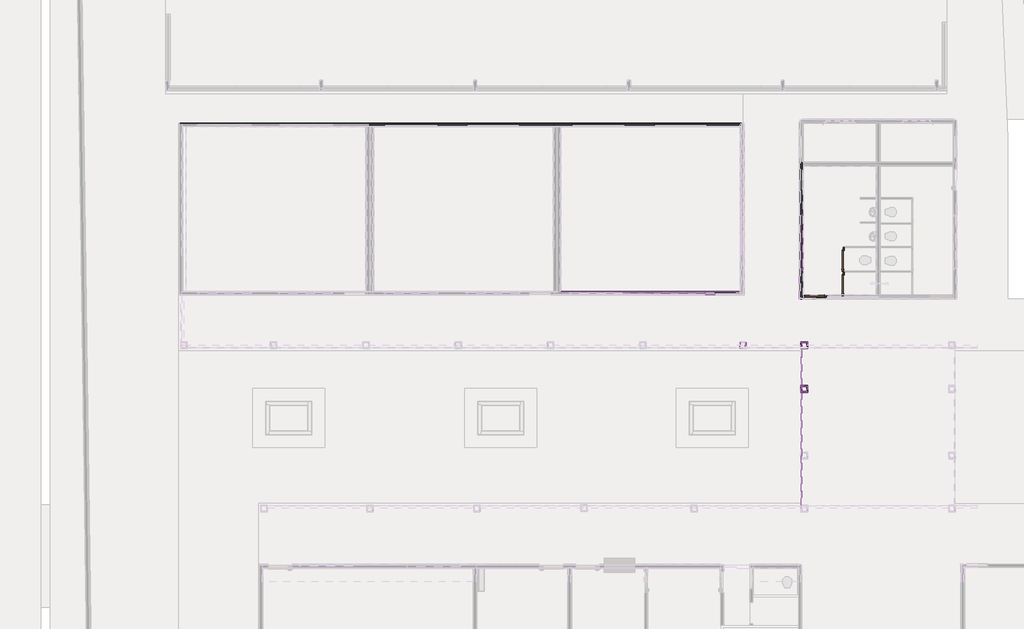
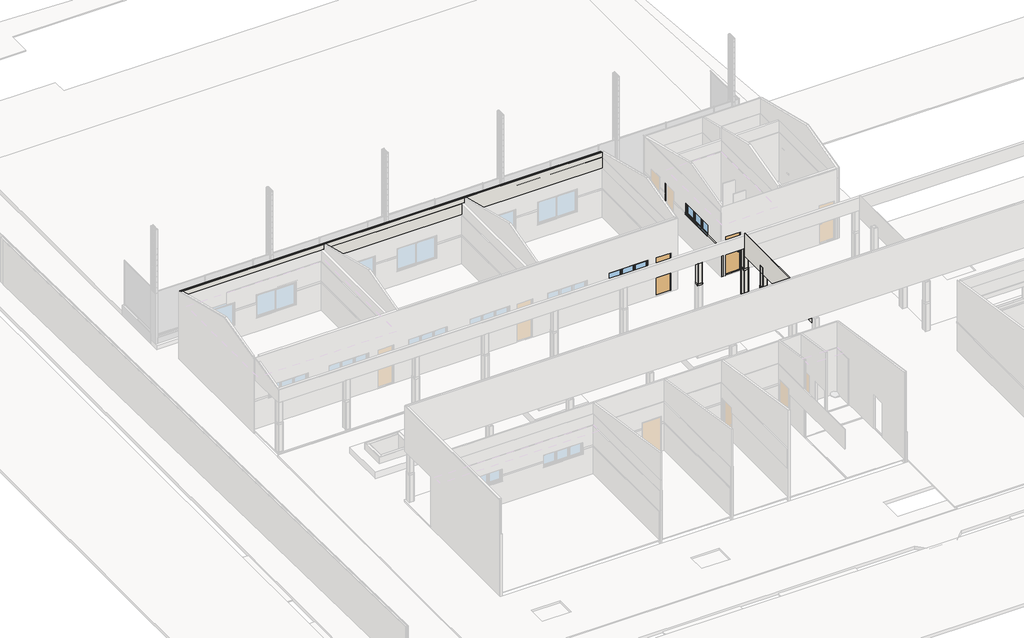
# One storey, part 9 of 28: 44 walls, 6 doors, 2 windows.
"""IFC4 building model written with IfcOpenShell, lengths in millimetres."""

from ifc_helpers import new_model, si_unit, frame, origin, place, context, project, spatial, polyline, outline, extrude, faceted_brep, transform, mapped, element, save
from components import door_29174598, door_c5e6bcd0, door_95b59213, pf15_l82cm_5bfc7586, pf15_l82cm_686caa18, window_2x60x220_bcaba8dd

model = new_model("IFC4")

# Units and contexts
model_context = context("Model", 3, world=origin())
ifc_project = project(units=[si_unit("LENGTHUNIT", "METRE", prefix="MILLI")], contexts=[model_context])

# Site, building, storey
site = spatial("IfcSite", under=ifc_project)
building = spatial("IfcBuilding", under=site)
storey = spatial("IfcBuildingStorey", under=building, Name="Térreo", Elevation=0.0)

# Doors
placement = place(None, origin())
door_shape = door_29174598(model_context)
element("IfcDoor", 1, ObjectType="FDE_SO_Soleiras1 : SO14_SoleiraRampadaDesnívelAté2cm_L=14cm_Cimentado 2", at=placement, inside=storey, context=model_context, shape_type="MappedRepresentation", body=[
    mapped(door_shape, transform((-36937.0, 21250.0, 200.0), x_axis=(1.0, 0.0, 0.0), y_axis=(0.0, 1.0, 0.0), z_axis=(0.0, 0.0, 1.0))),
])
door_2_shape = door_c5e6bcd0(model_context)
element("IfcDoor", 2, ObjectType="FDE_PM_PortaBoxe : PM74_PortaBoxe_L0,62m", at=placement, inside=storey, context=model_context, shape_type="MappedRepresentation", body=[
    mapped(door_2_shape, transform((-32328.0780576, 22525.9999995, 200.0), x_axis=(0.0, 1.0, 0.0), y_axis=(-1.0, 0.0, 0.0), z_axis=(0.0, 0.0, 1.0))),
])
element("IfcDoor", 3, ObjectType="FDE_PM_PortaBoxe : PM74_PortaBoxe_L0,62m", at=placement, inside=storey, context=model_context, shape_type="MappedRepresentation", body=[
    mapped(door_2_shape, transform((-32328.0780576, 21566.0000001, 200.0), x_axis=(0.0, 1.0, 0.0), y_axis=(-1.0, 0.0, 0.0), z_axis=(0.0, 0.0, 1.0))),
])
door_3_shape = door_95b59213(model_context)
element("IfcDoor", 4, ObjectType="FDE_SO_Soleiras1 : SO14_SoleiraRampadaDesnívelAté2cm_L=14cm_Cimentado 2", at=placement, inside=storey, context=model_context, shape_type="MappedRepresentation", body=[
    mapped(door_3_shape, transform((-33413.0, 21100.0, 215.0), x_axis=(-1.0, 0.0, 0.0), y_axis=(0.0, -1.0, 0.0), z_axis=(0.0, 0.0, 1.0))),
])
pf15_l82cm_shape = pf15_l82cm_5bfc7586(model_context)
element("IfcDoor", 5, ObjectType="FDE_PF15_PF16_PF17_PortaemChapadeFerro : PF15_L82cm", at=placement, inside=storey, context=model_context, shape_type="MappedRepresentation", body=[
    mapped(pf15_l82cm_shape, transform((-36937.0, 21255.0, 200.0), x_axis=(1.0, 0.0, 0.0), y_axis=(0.0, 1.0, 0.0), z_axis=(0.0, 0.0, 1.0))),
])
pf15_l82cm_2_shape = pf15_l82cm_686caa18(model_context)
element("IfcDoor", 6, ObjectType="FDE_PF15_PF16_PF17_PortaemChapadeFerro : PF15_L82cm", at=placement, inside=storey, context=model_context, shape_type="MappedRepresentation", body=[
    mapped(pf15_l82cm_2_shape, transform((-33413.0, 21105.0, 215.0), x_axis=(-1.0, 0.0, 0.0), y_axis=(0.0, -1.0, 0.0), z_axis=(0.0, 0.0, 1.0))),
])

# Walls
element("IfcWall", 7, ObjectType="FDE_S712_AlvenariadeTijoloCerâmico/Baiano_Alvenaria_9cm - Existente", at=placement, inside=storey, context=model_context, shape_type="SweptSolid", body=[
    extrude(outline(polyline([(0.0, -50830.0), (0.0, -43620.0), (3500.0, -43620.0), (3500.0, -50830.0), (0.0, -50830.0)]), holes=[polyline([(965.0, -47015.0), (2235.0, -47015.0), (2235.0, -44945.0), (965.0, -44945.0), (965.0, -47015.0)]), polyline([(965.0, -50215.0), (2235.0, -50215.0), (2235.0, -48145.0), (965.0, -48145.0), (965.0, -50215.0)])]), frame((0.0, 27780.0, 0.0), z_axis=(0.0, 1.0, 0.0), x_axis=(0.0, 0.0, 1.0)), (0.0, 0.0, 1.0), 90.0),
])
element("IfcWall", 8, ObjectType="FDE_S712_AlvenariadeTijoloCerâmico/Baiano_Alvenaria_9cm - Existente", at=placement, inside=storey, context=model_context, shape_type="Brep", body=[
    faceted_brep([(-36320.0, 21300.0, 0.0), (-43530.0, 21300.0, 0.0), (-43530.0, 21300.0, 3500.0), (-36320.0, 21300.0, 3500.0), (-36520.0, 21300.0, 200.0), (-36520.0, 21300.0, 2312.0), (-37354.0, 21300.0, 2312.0), (-37354.0, 21300.0, 200.0), (-37719.0, 21300.0, 1665.0), (-37719.0, 21300.0, 2335.0), (-39789.0, 21300.0, 2335.0), (-39789.0, 21300.0, 1665.0), (-40911.0, 21300.0, 1665.0), (-40911.0, 21300.0, 2335.0), (-42981.0, 21300.0, 2335.0), (-42981.0, 21300.0, 1665.0), (-43530.0, 21210.0, 0.0), (-36320.0, 21210.0, 0.0), (-36320.0, 21210.0, 3500.0), (-43530.0, 21210.0, 3500.0), (-36520.0, 21210.0, 2312.0), (-36520.0, 21210.0, 1824.9435125), (-36520.0, 21210.0, 1731.0528047), (-36520.0, 21210.0, 200.0), (-37354.0, 21210.0, 200.0), (-37354.0, 21210.0, 1731.0528047), (-37354.0, 21210.0, 1824.9435125), (-37354.0, 21210.0, 2312.0), (-37719.0, 21210.0, 2335.0), (-37719.0, 21210.0, 1824.9435125), (-37719.0, 21210.0, 1731.0528047), (-37719.0, 21210.0, 1665.0), (-39789.0, 21210.0, 1665.0), (-39789.0, 21210.0, 1731.0528047), (-39789.0, 21210.0, 1824.9435125), (-39789.0, 21210.0, 2335.0), (-40911.0, 21210.0, 2335.0), (-40911.0, 21210.0, 1824.9435125), (-40911.0, 21210.0, 1731.0528047), (-40911.0, 21210.0, 1665.0), (-42981.0, 21210.0, 1665.0), (-42981.0, 21210.0, 1731.0528047), (-42981.0, 21210.0, 1824.9435125), (-42981.0, 21210.0, 2335.0)], [[[0, 1, 2, 3], [4, 5, 6, 7], [8, 9, 10, 11], [12, 13, 14, 15]], [[16, 17, 18, 19], [20, 21, 22, 23, 24, 25, 26, 27], [28, 29, 30, 31, 32, 33, 34, 35], [36, 37, 38, 39, 40, 41, 42, 43]], [[1, 0, 17, 16]], [[3, 2, 19, 18]], [[2, 1, 16, 19]], [[4, 23, 22, 21, 20, 5]], [[5, 20, 27, 6]], [[6, 27, 26, 25, 24, 7]], [[23, 4, 7, 24]], [[8, 31, 30, 29, 28, 9]], [[9, 28, 35, 10]], [[10, 35, 34, 33, 32, 11]], [[31, 8, 11, 32]], [[12, 39, 38, 37, 36, 13]], [[13, 36, 43, 14]], [[14, 43, 42, 41, 40, 15]], [[39, 12, 15, 40]], [[17, 0, 3, 18]]]),
])
element("IfcWall", 9, ObjectType="FDE_S712_AlvenariadeTijoloCerâmico/Baiano_Alvenaria_9cm - Existente", at=placement, inside=storey, context=model_context, shape_type="Brep", body=[
    faceted_brep([(-33930.0, 21060.0, 0.0), (-33930.0, 21150.0, 0.0), (-33930.0, 26255.0, 0.0), (-33930.0, 26345.0, 0.0), (-33930.0, 26345.0, 3500.0), (-33930.0, 26255.0, 3500.0), (-33930.0, 21060.0, 3500.0), (-33930.0, 21060.0, 1731.0528047), (-33930.0, 21030.0, 1731.0528047), (-33930.0, 21030.0, 131.0), (-33930.0, 21060.0, 131.0), (-33930.0, 26096.0, 2327.0), (-33930.0, 26096.0, 215.0), (-33930.0, 25262.0, 215.0), (-33930.0, 25262.0, 2327.0), (-33930.0, 22215.0, 1665.0), (-33930.0, 22215.0, 2335.0), (-33930.0, 24285.0, 2335.0), (-33930.0, 24285.0, 1665.0), (-34020.0, 26345.0, 0.0), (-34020.0, 21060.0, 0.0), (-34020.0, 21060.0, 131.0), (-34020.0, 21030.0, 131.0), (-34020.0, 21030.0, 1731.0528047), (-34020.0, 21060.0, 1731.0528047), (-34020.0, 21060.0, 1824.9435125), (-34020.0, 21060.0, 3500.0), (-34020.0, 26345.0, 3500.0), (-34020.0, 26096.0, 215.0), (-34020.0, 26096.0, 1824.9435125), (-34020.0, 26096.0, 2327.0), (-34020.0, 25262.0, 2327.0), (-34020.0, 25262.0, 1824.9435125), (-34020.0, 25262.0, 215.0), (-34020.0, 22215.0, 2335.0), (-34020.0, 22215.0, 1824.9435125), (-34020.0, 22215.0, 1665.0), (-34020.0, 24285.0, 1665.0), (-34020.0, 24285.0, 1824.9435125), (-34020.0, 24285.0, 2335.0)], [[[0, 1, 2, 3, 4, 5, 6, 7, 8, 9, 10], [11, 12, 13, 14], [15, 16, 17, 18]], [[19, 20, 21, 22, 23, 24, 25, 26, 27], [28, 29, 30, 31, 32, 33], [34, 35, 36, 37, 38, 39]], [[3, 2, 1, 0, 20, 19]], [[6, 5, 4, 27, 26]], [[4, 3, 19, 27]], [[28, 12, 11, 30, 29]], [[30, 11, 14, 31]], [[31, 14, 13, 33, 32]], [[12, 28, 33, 13]], [[15, 36, 35, 34, 16]], [[16, 34, 39, 17]], [[17, 39, 38, 37, 18]], [[36, 15, 18, 37]], [[22, 21, 10, 9]], [[20, 0, 10, 21]], [[24, 23, 8, 7]], [[22, 9, 8, 23]], [[6, 26, 25, 24, 7]]]),
])
element("IfcWall", 10, ObjectType="FDE_S712_AlvenariadeTijoloCerâmico/Baiano_Alvenaria_9cm - Existente", at=placement, inside=storey, context=model_context, shape_type="Brep", body=[
    faceted_brep([(-58130.0, 27779.9999994, 0.0), (-50770.0, 27779.9999994, 0.0), (-50680.0, 27779.9999994, 0.0), (-43470.0, 27779.9999994, 0.0), (-43380.0, 27779.9999994, 0.0), (-36320.0, 27779.9999994, 0.0), (-36320.0, 27779.9999994, 220.0), (-36320.0, 27779.9999994, 1731.0528047), (-36320.0, 27779.9999994, 3767.0080278), (-43380.0, 27779.9999994, 3767.0080278), (-43470.0, 27779.9999994, 3767.0080278), (-50680.0, 27779.9999994, 3767.0080278), (-50770.0, 27779.9999994, 3767.0080278), (-58130.0, 27779.9999994, 3767.0080278), (-58130.0, 27779.9999994, 2900.0), (-58130.0, 27779.9999994, 1824.9435125), (-58130.0, 27779.9999994, 1731.0528047), (-58130.0, 27779.9999994, 220.0), (-47015.0, 27779.9999994, 965.0), (-47015.0, 27779.9999994, 1731.0528047), (-47015.0, 27779.9999994, 1824.9435125), (-47015.0, 27779.9999994, 2235.0), (-44945.0, 27779.9999994, 2235.0), (-44945.0, 27779.9999994, 1824.9435125), (-44945.0, 27779.9999994, 1731.0528047), (-44945.0, 27779.9999994, 965.0), (-50215.0, 27779.9999994, 965.0), (-50215.0, 27779.9999994, 1731.0528047), (-50215.0, 27779.9999994, 1824.9435125), (-50215.0, 27779.9999994, 2235.0), (-48145.0, 27779.9999994, 2235.0), (-48145.0, 27779.9999994, 1824.9435125), (-48145.0, 27779.9999994, 1731.0528047), (-48145.0, 27779.9999994, 965.0), (-57515.0, 27779.9999994, 965.0), (-57515.0, 27779.9999994, 2235.0), (-55835.5398007, 27779.9999994, 2235.0), (-55445.0, 27779.9999994, 2235.0), (-55445.0, 27779.9999994, 1824.9435125), (-55445.0, 27779.9999994, 1731.0528047), (-55445.0, 27779.9999994, 965.0), (-55835.5398007, 27779.9999994, 965.0), (-39715.0, 27779.9999994, 965.0), (-39715.0, 27779.9999994, 1731.0528047), (-39715.0, 27779.9999994, 1824.9435125), (-39715.0, 27779.9999994, 2235.0), (-37645.0, 27779.9999994, 2235.0), (-37645.0, 27779.9999994, 1824.9435125), (-37645.0, 27779.9999994, 1731.0528047), (-37645.0, 27779.9999994, 965.0), (-42915.0, 27779.9999994, 965.0), (-42915.0, 27779.9999994, 1731.0528047), (-42915.0, 27779.9999994, 1824.9435125), (-42915.0, 27779.9999994, 2235.0), (-40845.0, 27779.9999994, 2235.0), (-40845.0, 27779.9999994, 1824.9435125), (-40845.0, 27779.9999994, 1731.0528047), (-40845.0, 27779.9999994, 965.0), (-54315.0, 27779.9999994, 965.0), (-54315.0, 27779.9999994, 1731.0528047), (-54315.0, 27779.9999994, 1824.9435125), (-54315.0, 27779.9999994, 2235.0), (-52245.0, 27779.9999994, 2235.0), (-52245.0, 27779.9999994, 1824.9435125), (-52245.0, 27779.9999994, 1731.0528047), (-52245.0, 27779.9999994, 965.0), (-36320.0, 27869.9999994, 0.0), (-58130.0, 27869.9999994, 0.0), (-58130.0, 27869.9999994, 3744.5080278), (-36320.0, 27869.9999994, 3744.5080278), (-47015.0, 27869.9999994, 2235.0), (-47015.0, 27869.9999994, 965.0), (-44945.0, 27869.9999994, 965.0), (-44945.0, 27869.9999994, 2235.0), (-50215.0, 27869.9999994, 2235.0), (-50215.0, 27869.9999994, 965.0), (-48145.0, 27869.9999994, 965.0), (-48145.0, 27869.9999994, 2235.0), (-39715.0, 27869.9999994, 2235.0), (-39715.0, 27869.9999994, 965.0), (-37645.0, 27869.9999994, 965.0), (-37645.0, 27869.9999994, 2235.0), (-42915.0, 27869.9999994, 2235.0), (-42915.0, 27869.9999994, 965.0), (-40845.0, 27869.9999994, 965.0), (-40845.0, 27869.9999994, 2235.0), (-54315.0, 27869.9999994, 2235.0), (-54315.0, 27869.9999994, 965.0), (-52245.0, 27869.9999994, 965.0), (-52245.0, 27869.9999994, 2235.0), (-57515.0, 27869.9999994, 2235.0), (-57515.0, 27869.9999994, 965.0), (-55445.0, 27869.9999994, 965.0), (-55445.0, 27869.9999994, 2235.0)], [[[0, 1, 2, 3, 4, 5, 6, 7, 8, 9, 10, 11, 12, 13, 14, 15, 16, 17], [18, 19, 20, 21, 22, 23, 24, 25], [26, 27, 28, 29, 30, 31, 32, 33], [34, 35, 36, 37, 38, 39, 40, 41], [42, 43, 44, 45, 46, 47, 48, 49], [50, 51, 52, 53, 54, 55, 56, 57], [58, 59, 60, 61, 62, 63, 64, 65]], [[66, 67, 68, 69], [70, 71, 72, 73], [74, 75, 76, 77], [78, 79, 80, 81], [82, 83, 84, 85], [86, 87, 88, 89], [90, 91, 92, 93]], [[5, 4, 3, 2, 1, 0, 67, 66]], [[8, 7, 6, 5, 66, 69]], [[13, 12, 11, 10, 9, 8, 69, 68]], [[18, 71, 70, 21, 20, 19]], [[21, 70, 73, 22]], [[22, 73, 72, 25, 24, 23]], [[71, 18, 25, 72]], [[26, 75, 74, 29, 28, 27]], [[29, 74, 77, 30]], [[30, 77, 76, 33, 32, 31]], [[75, 26, 33, 76]], [[67, 0, 17, 16, 15, 14, 13, 68]], [[42, 79, 78, 45, 44, 43]], [[45, 78, 81, 46]], [[46, 81, 80, 49, 48, 47]], [[79, 42, 49, 80]], [[50, 83, 82, 53, 52, 51]], [[53, 82, 85, 54]], [[54, 85, 84, 57, 56, 55]], [[83, 50, 57, 84]], [[58, 87, 86, 61, 60, 59]], [[61, 86, 89, 62]], [[62, 89, 88, 65, 64, 63]], [[87, 58, 65, 88]], [[34, 91, 90, 35]], [[35, 90, 93, 37, 36]], [[37, 93, 92, 40, 39, 38]], [[91, 34, 41, 40, 92]]]),
])
element("IfcWall", 11, ObjectType="Pintura Externa - Tinta Acrílica Verbrás  Verde Água", at=placement, inside=storey, context=model_context, shape_type="Brep", body=[
    faceted_brep([(-58220.0, 27869.9999994, 0.0), (-58130.0, 27869.9999994, 0.0), (-50830.0, 27869.9999994, 0.0), (-43620.0, 27869.9999994, 0.0), (-36320.0, 27869.9999994, 0.0), (-36320.0, 27869.9999994, 1824.9435125), (-36320.0, 27869.9999994, 2900.0), (-36320.0, 27869.9999994, 3744.5080278), (-36320.0, 27869.9999994, 3748.2225857), (-58220.0, 27869.9999994, 3748.2225857), (-47015.0, 27869.9999994, 965.0), (-47015.0, 27869.9999994, 2235.0), (-44945.0, 27869.9999994, 2235.0), (-44945.0, 27869.9999994, 965.0), (-50215.0, 27869.9999994, 965.0), (-50215.0, 27869.9999994, 2235.0), (-48145.0, 27869.9999994, 2235.0), (-48145.0, 27869.9999994, 965.0), (-39715.0, 27869.9999994, 965.0), (-39715.0, 27869.9999994, 2235.0), (-37645.0, 27869.9999994, 2235.0), (-37645.0, 27869.9999994, 965.0), (-42915.0, 27869.9999994, 965.0), (-42915.0, 27869.9999994, 2235.0), (-40845.0, 27869.9999994, 2235.0), (-40845.0, 27869.9999994, 965.0), (-54315.0, 27869.9999994, 965.0), (-54315.0, 27869.9999994, 2235.0), (-52245.0, 27869.9999994, 2235.0), (-52245.0, 27869.9999994, 965.0), (-57515.0, 27869.9999994, 965.0), (-57515.0, 27869.9999994, 2235.0), (-55445.0, 27869.9999994, 2235.0), (-55445.0, 27869.9999994, 965.0), (-36320.0, 27899.9999994, 0.0), (-58220.0, 27899.9999994, 0.0), (-58220.0, 27899.9999994, 3737.0080278), (-58220.0, 27899.9999994, 3748.2225857), (-36320.0, 27899.9999994, 3748.2225857), (-47015.0, 27899.9999994, 2235.0), (-47015.0, 27899.9999994, 965.0), (-44945.0, 27899.9999994, 965.0), (-44945.0, 27899.9999994, 2235.0), (-50215.0, 27899.9999994, 2235.0), (-50215.0, 27899.9999994, 965.0), (-48145.0, 27899.9999994, 965.0), (-48145.0, 27899.9999994, 2235.0), (-39715.0, 27899.9999994, 2235.0), (-39715.0, 27899.9999994, 965.0), (-37645.0, 27899.9999994, 965.0), (-37645.0, 27899.9999994, 2235.0), (-42915.0, 27899.9999994, 2235.0), (-42915.0, 27899.9999994, 965.0), (-40845.0, 27899.9999994, 965.0), (-40845.0, 27899.9999994, 2235.0), (-54315.0, 27899.9999994, 2235.0), (-54315.0, 27899.9999994, 965.0), (-52245.0, 27899.9999994, 965.0), (-52245.0, 27899.9999994, 2235.0), (-57515.0, 27899.9999994, 2235.0), (-57515.0, 27899.9999994, 965.0), (-55445.0, 27899.9999994, 965.0), (-55445.0, 27899.9999994, 2235.0)], [[[0, 1, 2, 3, 4, 5, 6, 7, 8, 9], [10, 11, 12, 13], [14, 15, 16, 17], [18, 19, 20, 21], [22, 23, 24, 25], [26, 27, 28, 29], [30, 31, 32, 33]], [[34, 35, 36, 37, 38], [39, 40, 41, 42], [43, 44, 45, 46], [47, 48, 49, 50], [51, 52, 53, 54], [55, 56, 57, 58], [59, 60, 61, 62]], [[4, 3, 2, 1, 0, 35, 34]], [[9, 8, 38, 37]], [[0, 9, 37, 36, 35]], [[10, 40, 39, 11]], [[11, 39, 42, 12]], [[12, 42, 41, 13]], [[40, 10, 13, 41]], [[14, 44, 43, 15]], [[15, 43, 46, 16]], [[16, 46, 45, 17]], [[44, 14, 17, 45]], [[8, 7, 6, 5, 4, 34, 38]], [[18, 48, 47, 19]], [[19, 47, 50, 20]], [[20, 50, 49, 21]], [[48, 18, 21, 49]], [[22, 52, 51, 23]], [[23, 51, 54, 24]], [[24, 54, 53, 25]], [[52, 22, 25, 53]], [[26, 56, 55, 27]], [[27, 55, 58, 28]], [[28, 58, 57, 29]], [[56, 26, 29, 57]], [[30, 60, 59, 31]], [[31, 59, 62, 32]], [[32, 62, 61, 33]], [[60, 30, 33, 61]]]),
])
element("IfcWall", 12, ObjectType="ACM Verde Folha_Marquise", at=placement, inside=storey, context=model_context, shape_type="Brep", body=[
    faceted_brep([(-33974.4091269, 19037.7110243, 2530.0), (-33974.4091269, 12971.0, 2530.0), (-33974.4091269, 12971.0, 2900.0), (-33974.4091269, 12980.0, 2900.0), (-33974.4091269, 12980.0, 3790.9420848), (-33974.4091269, 19037.7110243, 3790.9420848), (-33954.4091269, 19037.7110243, 2530.0), (-33954.4091269, 19037.7110243, 3790.9420848), (-33954.4091269, 19017.7110243, 3790.9420848), (-33954.4091269, 13000.0, 3790.9420848), (-33954.4091269, 12980.0, 3790.9420848), (-33954.4091269, 12980.0, 2900.0), (-33954.4091269, 12971.0, 2900.0), (-33954.4091269, 12971.0, 2530.0), (-33954.4091269, 12980.0, 2530.0), (-33954.4091269, 13000.0, 2530.0), (-33954.4091269, 19017.7110243, 2530.0)], [[[0, 1, 2, 3, 4, 5]], [[6, 7, 8, 9, 10, 11, 12, 13, 14, 15, 16]], [[1, 0, 6, 16, 15, 14, 13]], [[5, 4, 10, 9, 8, 7]], [[11, 3, 2, 12]], [[2, 1, 13, 12]], [[4, 3, 11, 10]], [[0, 5, 7, 6]]]),
])
element("IfcWall", 13, ObjectType="Faixa - Revestimento Cerâmico Verde Folha 10x10cm", at=placement, inside=storey, context=model_context, shape_type="Brep", body=[
    faceted_brep([(-34050.0, 21030.0, 1731.0528047), (-34020.0, 21030.0, 1731.0528047), (-33930.0, 21030.0, 1731.0528047), (-33150.0, 21030.0, 1731.0528047), (-33150.0, 21030.0, 1824.9435125), (-34050.0, 21030.0, 1824.9435125), (-34050.0, 21060.0, 1731.0528047), (-34050.0, 21060.0, 1824.9435125), (-34020.0, 21060.0, 1824.9435125), (-33150.0, 21060.0, 1824.9435125), (-33150.0, 21060.0, 1731.0528047), (-33930.0, 21060.0, 1731.0528047), (-34020.0, 21060.0, 1731.0528047)], [[[0, 1, 2, 3, 4, 5]], [[6, 7, 8, 9, 10, 11, 12]], [[3, 2, 1, 0, 6, 12, 11, 10]], [[4, 3, 10, 9]], [[5, 4, 9, 8, 7]], [[0, 5, 7, 6]]]),
])
element("IfcWall", 14, ObjectType="Revestimento Cerâmico 10x10cm", at=placement, inside=storey, context=model_context, shape_type="Brep", body=[
    faceted_brep([(-36350.0, 21330.0, 0.0), (-43380.0, 21330.0, 0.0), (-43380.0, 21330.0, 220.0), (-43380.0, 21330.0, 1731.0528047), (-43350.0, 21330.0, 1731.0528047), (-42981.0, 21330.0, 1731.0528047), (-42981.0, 21330.0, 1665.0), (-40911.0, 21330.0, 1665.0), (-40911.0, 21330.0, 1731.0528047), (-39789.0, 21330.0, 1731.0528047), (-39789.0, 21330.0, 1665.0), (-37719.0, 21330.0, 1665.0), (-37719.0, 21330.0, 1731.0528047), (-37354.0, 21330.0, 1731.0528047), (-37354.0, 21330.0, 200.0), (-36520.0, 21330.0, 200.0), (-36520.0, 21330.0, 1731.0528047), (-36350.0, 21330.0, 1731.0528047), (-43380.0, 21300.0, 0.0), (-36350.0, 21300.0, 0.0), (-36350.0, 21300.0, 1731.0528047), (-36520.0, 21300.0, 1731.0528047), (-36520.0, 21300.0, 200.0), (-37354.0, 21300.0, 200.0), (-37354.0, 21300.0, 1731.0528047), (-37719.0, 21300.0, 1731.0528047), (-37719.0, 21300.0, 1665.0), (-39789.0, 21300.0, 1665.0), (-39789.0, 21300.0, 1731.0528047), (-40911.0, 21300.0, 1731.0528047), (-40911.0, 21300.0, 1665.0), (-42981.0, 21300.0, 1665.0), (-42981.0, 21300.0, 1731.0528047), (-43380.0, 21300.0, 1731.0528047), (-43380.0, 21315.0, 1731.0528047)], [[[0, 1, 2, 3, 4, 5, 6, 7, 8, 9, 10, 11, 12, 13, 14, 15, 16, 17]], [[18, 19, 20, 21, 22, 23, 24, 25, 26, 27, 28, 29, 30, 31, 32, 33]], [[1, 0, 19, 18]], [[20, 17, 16, 21]], [[3, 34, 33, 32, 5, 4]], [[24, 13, 12, 25]], [[28, 9, 8, 29]], [[0, 17, 20, 19]], [[3, 2, 1, 18, 33, 34]], [[15, 22, 21, 16]], [[23, 14, 13, 24]], [[22, 15, 14, 23]], [[11, 26, 25, 12]], [[27, 10, 9, 28]], [[26, 11, 10, 27]], [[7, 30, 29, 8]], [[31, 6, 5, 32]], [[30, 7, 6, 31]]]),
])
element("IfcWall", 15, ObjectType="Faixa - Revestimento Cerâmico Verde Folha 10x10cm", at=placement, inside=storey, context=model_context, shape_type="SweptSolid", body=[
    extrude(outline(polyline([(-43365.0, 21270.0), (-43365.0, 21300.0), (-42981.0, 21300.0), (-42981.0, 21270.0), (-43365.0, 21270.0)])), frame((0.0, 0.0, 1731.0528047), z_axis=(0.0, 0.0, 1.0), x_axis=(1.0, 0.0, 0.0)), (0.0, 0.0, 1.0), 93.8907079),
    extrude(outline(polyline([(-36350.0, 21300.0), (-36350.0, 21270.0), (-36520.0, 21270.0), (-36520.0, 21300.0), (-36350.0, 21300.0)])), frame((0.0, 0.0, 1731.0528047), z_axis=(0.0, 0.0, 1.0), x_axis=(1.0, 0.0, 0.0)), (0.0, 0.0, 1.0), 93.8907079),
    extrude(outline(polyline([(-37719.0, 21270.0), (-37719.0, 21300.0), (-37354.0, 21300.0), (-37354.0, 21270.0), (-37719.0, 21270.0)])), frame((0.0, 0.0, 1731.0528047), z_axis=(0.0, 0.0, 1.0), x_axis=(1.0, 0.0, 0.0)), (0.0, 0.0, 1.0), 93.8907079),
    extrude(outline(polyline([(-39789.0, 21300.0), (-39789.0, 21270.0), (-40911.0, 21270.0), (-40911.0, 21300.0), (-39789.0, 21300.0)])), frame((0.0, 0.0, 1731.0528047), z_axis=(0.0, 0.0, 1.0), x_axis=(1.0, 0.0, 0.0)), (0.0, 0.0, 1.0), 93.8907079),
])
element("IfcWall", 16, ObjectType="Pardes Internas_Pintura Acrílica Branco Neve 2", at=placement, inside=storey, context=model_context, shape_type="Brep", body=[
    faceted_brep([(-43380.0, 21331.0, 2900.8), (-36335.0, 21331.0, 2900.8), (-36335.0, 21331.0, 1824.9435125), (-36520.0, 21331.0, 1824.9435125), (-36520.0, 21331.0, 2312.0), (-37354.0, 21331.0, 2312.0), (-37354.0, 21331.0, 1824.9435125), (-37719.0, 21331.0, 1824.9435125), (-37719.0, 21331.0, 2335.0), (-39789.0, 21331.0, 2335.0), (-39789.0, 21331.0, 1824.9435125), (-40911.0, 21331.0, 1824.9435125), (-40911.0, 21331.0, 2335.0), (-42981.0, 21331.0, 2335.0), (-42981.0, 21331.0, 1824.9435125), (-43349.0, 21331.0, 1824.9435125), (-43380.0, 21331.0, 1824.9435125), (-43380.0, 21331.0, 2900.0), (-36335.0, 21300.0, 2900.8), (-43380.0, 21300.0, 2900.8), (-43380.0, 21300.0, 1824.9435125), (-42981.0, 21300.0, 1824.9435125), (-42981.0, 21300.0, 2335.0), (-40911.0, 21300.0, 2335.0), (-40911.0, 21300.0, 1824.9435125), (-39789.0, 21300.0, 1824.9435125), (-39789.0, 21300.0, 2335.0), (-37719.0, 21300.0, 2335.0), (-37719.0, 21300.0, 1824.9435125), (-37354.0, 21300.0, 1824.9435125), (-37354.0, 21300.0, 2312.0), (-36520.0, 21300.0, 2312.0), (-36520.0, 21300.0, 1824.9435125), (-36335.0, 21300.0, 1824.9435125)], [[[0, 1, 2, 3, 4, 5, 6, 7, 8, 9, 10, 11, 12, 13, 14, 15, 16, 17]], [[18, 19, 20, 21, 22, 23, 24, 25, 26, 27, 28, 29, 30, 31, 32, 33]], [[2, 33, 32, 3]], [[20, 16, 15, 14, 21]], [[6, 29, 28, 7]], [[10, 25, 24, 11]], [[1, 0, 19, 18]], [[2, 1, 18, 33]], [[0, 17, 16, 20, 19]], [[31, 4, 3, 32]], [[4, 31, 30, 5]], [[5, 30, 29, 6]], [[27, 8, 7, 28]], [[8, 27, 26, 9]], [[9, 26, 25, 10]], [[23, 12, 11, 24]], [[12, 23, 22, 13]], [[13, 22, 21, 14]]]),
])
element("IfcWall", 17, ObjectType="Faixa - Revestimento Cerâmico Verde Folha 10x10cm", at=placement, inside=storey, context=model_context, shape_type="Brep", body=[
    faceted_brep([(-36520.0, 21180.0, 1731.0528047), (-36200.0, 21180.0, 1731.0528047), (-36200.0, 21180.0, 1824.9435125), (-36520.0, 21180.0, 1824.9435125), (-36200.0, 21210.0, 1731.0528047), (-36230.0, 21210.0, 1731.0528047), (-36520.0, 21210.0, 1731.0528047), (-36520.0, 21210.0, 1824.9435125), (-36230.0, 21210.0, 1824.9435125), (-36200.0, 21210.0, 1824.9435125)], [[[0, 1, 2, 3]], [[4, 5, 6, 7, 8, 9]], [[1, 0, 6, 5, 4]], [[3, 2, 9, 8, 7]], [[0, 3, 7, 6]], [[2, 1, 4, 9]]]),
    faceted_brep([(-37354.0, 21180.0, 1731.0528047), (-37354.0, 21180.0, 1824.9435125), (-37719.0, 21180.0, 1824.9435125), (-37719.0, 21180.0, 1731.0528047), (-37354.0, 21210.0, 1824.9435125), (-37354.0, 21210.0, 1731.0528047), (-37719.0, 21210.0, 1731.0528047), (-37719.0, 21210.0, 1824.9435125)], [[[0, 1, 2, 3]], [[4, 5, 6, 7]], [[5, 0, 3, 6]], [[1, 4, 7, 2]], [[1, 0, 5, 4]], [[3, 2, 7, 6]]]),
])
element("IfcWall", 18, ObjectType="Pardes Externas_Pintura Acrílica Branco Neve", at=placement, inside=storey, context=model_context, shape_type="Brep", body=[
    faceted_brep([(-33974.4091269, 19330.0, 1794.0), (-33953.4091269, 19330.0, 1794.0), (-33753.4091269, 19330.0, 1794.0), (-33732.4091269, 19330.0, 1794.0), (-33732.4091269, 19330.0, 2900.0), (-33753.4091269, 19330.0, 2900.0), (-33953.4091269, 19330.0, 2900.0), (-33974.4091269, 19330.0, 2900.0), (-33974.4091269, 19351.0, 1794.0), (-33974.4091269, 19351.0, 2900.0), (-33732.4091269, 19351.0, 2900.0), (-33732.4091269, 19351.0, 1794.0)], [[[0, 1, 2, 3, 4, 5, 6, 7]], [[8, 9, 10, 11]], [[3, 2, 1, 0, 8, 11]], [[7, 6, 5, 4, 10, 9]], [[0, 7, 9, 8]], [[4, 3, 11, 10]]]),
])
element("IfcWall", 19, ObjectType="Revestimento Cerâmico 10x10cm", at=placement, inside=storey, context=model_context, shape_type="Brep", body=[
    faceted_brep([(-33983.4091269, 19330.0, 194.0), (-33953.4091269, 19330.0, 194.0), (-33753.4091269, 19330.0, 194.0), (-33723.4091269, 19330.0, 194.0), (-33723.4091269, 19330.0, 1694.0), (-33753.4091269, 19330.0, 1694.0), (-33953.4091269, 19330.0, 1694.0), (-33983.4091269, 19330.0, 1694.0), (-33983.4091269, 19360.0, 194.0), (-33983.4091269, 19360.0, 1694.0), (-33723.4091269, 19360.0, 1694.0), (-33723.4091269, 19360.0, 194.0)], [[[0, 1, 2, 3, 4, 5, 6, 7]], [[8, 9, 10, 11]], [[3, 2, 1, 0, 8, 11]], [[7, 6, 5, 4, 10, 9]], [[0, 7, 9, 8]], [[4, 3, 11, 10]]]),
])
element("IfcWall", 20, ObjectType="Revestimento Cerâmico 10x10cm", at=placement, inside=storey, context=model_context, shape_type="Brep", body=[
    faceted_brep([(-33953.4091269, 19100.0, 194.0), (-33953.4091269, 19130.0, 194.0), (-33953.4091269, 19330.0, 194.0), (-33953.4091269, 19330.0, 1694.0), (-33953.4091269, 19130.0, 1694.0), (-33953.4091269, 19100.0, 1694.0), (-33983.4091269, 19100.0, 194.0), (-33983.4091269, 19100.0, 1694.0), (-33983.4091269, 19330.0, 1694.0), (-33983.4091269, 19330.0, 194.0)], [[[0, 1, 2, 3, 4, 5]], [[6, 7, 8, 9]], [[2, 1, 0, 6, 9]], [[5, 4, 3, 8, 7]], [[3, 2, 9, 8]], [[0, 5, 7, 6]]]),
])
element("IfcWall", 21, ObjectType="Revestimento Cerâmico 10x10cm", at=placement, inside=storey, context=model_context, shape_type="Brep", body=[
    faceted_brep([(-33753.4091269, 19330.0, 194.0), (-33753.4091269, 19130.0, 194.0), (-33753.4091269, 19100.0, 194.0), (-33753.4091269, 19100.0, 1694.0), (-33753.4091269, 19130.0, 1694.0), (-33753.4091269, 19330.0, 1694.0), (-33723.4091269, 19330.0, 194.0), (-33723.4091269, 19330.0, 1694.0), (-33723.4091269, 19100.0, 1694.0), (-33723.4091269, 19100.0, 194.0)], [[[0, 1, 2, 3, 4, 5]], [[6, 7, 8, 9]], [[2, 1, 0, 6, 9]], [[5, 4, 3, 8, 7]], [[0, 5, 7, 6]], [[3, 2, 9, 8]]]),
])
element("IfcWall", 22, ObjectType="Revestimento Cerâmico 10x10cm", at=placement, inside=storey, context=model_context, shape_type="SweptSolid", body=[
    extrude(outline(polyline([(-33753.4091269, 19100.0), (-33953.4091269, 19100.0), (-33953.4091269, 19130.0), (-33753.4091269, 19130.0), (-33753.4091269, 19100.0)])), frame((0.0, 0.0, 194.0), z_axis=(0.0, 0.0, 1.0), x_axis=(1.0, 0.0, 0.0)), (0.0, 0.0, 1.0), 1500.0),
])
element("IfcWall", 23, ObjectType="Faixa - Revestimento Cerâmico Verde Folha 10x10cm", at=placement, inside=storey, context=model_context, shape_type="Brep", body=[
    faceted_brep([(-33983.4091269, 19330.0, 1694.0), (-33953.4091269, 19330.0, 1694.0), (-33753.4091269, 19330.0, 1694.0), (-33723.4091269, 19330.0, 1694.0), (-33723.4091269, 19330.0, 1794.0), (-33753.4091269, 19330.0, 1794.0), (-33953.4091269, 19330.0, 1794.0), (-33983.4091269, 19330.0, 1794.0), (-33983.4091269, 19360.0, 1694.0), (-33983.4091269, 19360.0, 1794.0), (-33723.4091269, 19360.0, 1794.0), (-33723.4091269, 19360.0, 1694.0)], [[[0, 1, 2, 3, 4, 5, 6, 7]], [[8, 9, 10, 11]], [[3, 2, 1, 0, 8, 11]], [[7, 6, 5, 4, 10, 9]], [[4, 3, 11, 10]], [[0, 7, 9, 8]]]),
])
element("IfcWall", 24, ObjectType="Faixa - Revestimento Cerâmico Verde Folha 10x10cm", at=placement, inside=storey, context=model_context, shape_type="Brep", body=[
    faceted_brep([(-33753.4091269, 19330.0, 1694.0), (-33753.4091269, 19130.0, 1694.0), (-33753.4091269, 19100.0, 1694.0), (-33753.4091269, 19100.0, 1794.0), (-33753.4091269, 19130.0, 1794.0), (-33753.4091269, 19330.0, 1794.0), (-33723.4091269, 19330.0, 1694.0), (-33723.4091269, 19330.0, 1794.0), (-33723.4091269, 19100.0, 1794.0), (-33723.4091269, 19100.0, 1694.0)], [[[0, 1, 2, 3, 4, 5]], [[6, 7, 8, 9]], [[2, 1, 0, 6, 9]], [[5, 4, 3, 8, 7]], [[0, 5, 7, 6]], [[3, 2, 9, 8]]]),
])
element("IfcWall", 25, ObjectType="Faixa - Revestimento Cerâmico Verde Folha 10x10cm", at=placement, inside=storey, context=model_context, shape_type="Brep", body=[
    faceted_brep([(-33983.4091269, 19100.0, 1694.0), (-33753.4091269, 19100.0, 1694.0), (-33753.4091269, 19100.0, 1794.0), (-33983.4091269, 19100.0, 1794.0), (-33983.4091269, 19130.0, 1694.0), (-33983.4091269, 19130.0, 1794.0), (-33953.4091269, 19130.0, 1794.0), (-33753.4091269, 19130.0, 1794.0), (-33753.4091269, 19130.0, 1694.0), (-33953.4091269, 19130.0, 1694.0), (-33753.4091269, 19109.0, 1794.0)], [[[0, 1, 2, 3]], [[4, 5, 6, 7, 8, 9]], [[1, 0, 4, 9, 8]], [[3, 2, 10, 7, 6, 5]], [[2, 1, 8, 7, 10]], [[0, 3, 5, 4]]]),
])
element("IfcWall", 26, ObjectType="Faixa - Revestimento Cerâmico Verde Folha 10x10cm", at=placement, inside=storey, context=model_context, shape_type="SweptSolid", body=[
    extrude(outline(polyline([(-33983.4091269, 19130.0), (-33983.4091269, 19330.0), (-33953.4091269, 19330.0), (-33953.4091269, 19130.0), (-33983.4091269, 19130.0)])), frame((0.0, 0.0, 1694.0), z_axis=(0.0, 0.0, 1.0), x_axis=(1.0, 0.0, 0.0)), (0.0, 0.0, 1.0), 100.0),
])
element("IfcWall", 27, ObjectType="Pardes Externas_Pintura Acrílica Branco Neve", at=placement, inside=storey, context=model_context, shape_type="SweptSolid", body=[
    extrude(outline(polyline([(-33753.4091269, 19109.0), (-33953.4091269, 19109.0), (-33953.4091269, 19130.0), (-33753.4091269, 19130.0), (-33753.4091269, 19109.0)])), frame((0.0, 0.0, 1794.0), z_axis=(0.0, 0.0, 1.0), x_axis=(1.0, 0.0, 0.0)), (0.0, 0.0, 1.0), 1106.0),
])
element("IfcWall", 28, ObjectType="Pardes Externas_Pintura Acrílica Branco Neve", at=placement, inside=storey, context=model_context, shape_type="Brep", body=[
    faceted_brep([(-33753.4091269, 19330.0, 1794.0), (-33753.4091269, 19130.0, 1794.0), (-33753.4091269, 19109.0, 1794.0), (-33753.4091269, 19109.0, 2900.0), (-33753.4091269, 19130.0, 2900.0), (-33753.4091269, 19330.0, 2900.0), (-33732.4091269, 19330.0, 1794.0), (-33732.4091269, 19330.0, 2900.0), (-33732.4091269, 19109.0, 2900.0), (-33732.4091269, 19109.0, 1794.0)], [[[0, 1, 2, 3, 4, 5]], [[6, 7, 8, 9]], [[2, 1, 0, 6, 9]], [[5, 4, 3, 8, 7]], [[3, 2, 9, 8]], [[0, 5, 7, 6]]]),
])
element("IfcWall", 29, ObjectType="Pardes Externas_Pintura Acrílica Branco Neve", at=placement, inside=storey, context=model_context, shape_type="Brep", body=[
    faceted_brep([(-33974.4091269, 19330.0, 1794.0), (-33974.4091269, 19109.0, 1794.0), (-33974.4091269, 19109.0, 2900.0), (-33974.4091269, 19330.0, 2900.0), (-33953.4091269, 19330.0, 1794.0), (-33953.4091269, 19330.0, 2900.0), (-33953.4091269, 19130.0, 2900.0), (-33953.4091269, 19109.0, 2900.0), (-33953.4091269, 19109.0, 1794.0), (-33953.4091269, 19130.0, 1794.0)], [[[0, 1, 2, 3]], [[4, 5, 6, 7, 8, 9]], [[1, 0, 4, 9, 8]], [[3, 2, 7, 6, 5]], [[2, 1, 8, 7]], [[0, 3, 5, 4]]]),
])
element("IfcWall", 30, ObjectType="Faixa - Revestimento Cerâmico Verde Folha 10x10cm", at=placement, inside=storey, context=model_context, shape_type="Brep", body=[
    faceted_brep([(-36150.0, 19330.0, 1694.0), (-36150.0, 19130.0, 1694.0), (-36150.0, 19100.0, 1694.0), (-36150.0, 19100.0, 1794.0), (-36150.0, 19130.0, 1794.0), (-36150.0, 19330.0, 1794.0), (-36120.0, 19330.0, 1694.0), (-36120.0, 19330.0, 1794.0), (-36120.0, 19100.0, 1794.0), (-36120.0, 19100.0, 1694.0)], [[[0, 1, 2, 3, 4, 5]], [[6, 7, 8, 9]], [[2, 1, 0, 6, 9]], [[5, 4, 3, 8, 7]], [[0, 5, 7, 6]], [[3, 2, 9, 8]]]),
])
element("IfcWall", 31, ObjectType="Faixa - Revestimento Cerâmico Verde Folha 10x10cm", at=placement, inside=storey, context=model_context, shape_type="Brep", body=[
    faceted_brep([(-36380.0, 19100.0, 1694.0), (-36150.0, 19100.0, 1694.0), (-36150.0, 19100.0, 1794.0), (-36380.0, 19100.0, 1794.0), (-36380.0, 19130.0, 1694.0), (-36380.0, 19130.0, 1794.0), (-36350.0, 19130.0, 1794.0), (-36150.0, 19130.0, 1794.0), (-36150.0, 19130.0, 1694.0), (-36350.0, 19130.0, 1694.0), (-36150.0, 19109.0, 1794.0)], [[[0, 1, 2, 3]], [[4, 5, 6, 7, 8, 9]], [[1, 0, 4, 9, 8]], [[3, 2, 10, 7, 6, 5]], [[2, 1, 8, 7, 10]], [[0, 3, 5, 4]]]),
])
element("IfcWall", 32, ObjectType="Faixa - Revestimento Cerâmico Verde Folha 10x10cm", at=placement, inside=storey, context=model_context, shape_type="SweptSolid", body=[
    extrude(outline(polyline([(-36380.0, 19130.0), (-36380.0, 19330.0), (-36350.0, 19330.0), (-36350.0, 19130.0), (-36380.0, 19130.0)])), frame((0.0, 0.0, 1694.0), z_axis=(0.0, 0.0, 1.0), x_axis=(1.0, 0.0, 0.0)), (0.0, 0.0, 1.0), 100.0),
])
element("IfcWall", 33, ObjectType="Pardes Externas_Pintura Acrílica Branco Neve", at=placement, inside=storey, context=model_context, shape_type="SweptSolid", body=[
    extrude(outline(polyline([(-36150.0, 19109.0), (-36350.0, 19109.0), (-36350.0, 19130.0), (-36150.0, 19130.0), (-36150.0, 19109.0)])), frame((0.0, 0.0, 1794.0), z_axis=(0.0, 0.0, 1.0), x_axis=(1.0, 0.0, 0.0)), (0.0, 0.0, 1.0), 1106.0),
])
element("IfcWall", 34, ObjectType="Pardes Externas_Pintura Acrílica Branco Neve", at=placement, inside=storey, context=model_context, shape_type="Brep", body=[
    faceted_brep([(-36150.0, 19330.0, 1794.0), (-36150.0, 19130.0, 1794.0), (-36150.0, 19109.0, 1794.0), (-36150.0, 19109.0, 2900.0), (-36150.0, 19130.0, 2900.0), (-36150.0, 19330.0, 2900.0), (-36129.0, 19330.0, 1794.0), (-36129.0, 19330.0, 2900.0), (-36129.0, 19109.0, 2900.0), (-36129.0, 19109.0, 1794.0)], [[[0, 1, 2, 3, 4, 5]], [[6, 7, 8, 9]], [[2, 1, 0, 6, 9]], [[5, 4, 3, 8, 7]], [[3, 2, 9, 8]], [[0, 5, 7, 6]]]),
])
element("IfcWall", 35, ObjectType="Pardes Externas_Pintura Acrílica Branco Neve", at=placement, inside=storey, context=model_context, shape_type="Brep", body=[
    faceted_brep([(-36371.0, 19330.0, 1794.0), (-36371.0, 19109.0, 1794.0), (-36371.0, 19109.0, 2900.0), (-36371.0, 19330.0, 2900.0), (-36350.0, 19330.0, 1794.0), (-36350.0, 19330.0, 2900.0), (-36350.0, 19130.0, 2900.0), (-36350.0, 19109.0, 2900.0), (-36350.0, 19109.0, 1794.0), (-36350.0, 19130.0, 1794.0)], [[[0, 1, 2, 3]], [[4, 5, 6, 7, 8, 9]], [[1, 0, 4, 9, 8]], [[3, 2, 7, 6, 5]], [[2, 1, 8, 7]], [[0, 3, 5, 4]]]),
])
element("IfcWall", 36, ObjectType="Pardes Externas_Pintura Acrílica Branco Neve", at=placement, inside=storey, context=model_context, shape_type="Brep", body=[
    faceted_brep([(-33974.4091269, 17620.0, 1794.0), (-33953.4091269, 17620.0, 1794.0), (-33753.4091269, 17620.0, 1794.0), (-33732.4091269, 17620.0, 1794.0), (-33732.4091269, 17620.0, 3021.0849444), (-33753.4091269, 17620.0, 3017.9349444), (-33954.4091269, 17620.0, 2987.7849444), (-33954.4091269, 17620.0, 2900.0), (-33974.4091269, 17620.0, 2900.0), (-33974.4091269, 17641.0, 1794.0), (-33974.4091269, 17641.0, 2900.0), (-33954.4091269, 17641.0, 2900.0), (-33954.4091269, 17641.0, 2987.7849444), (-33732.4091269, 17641.0, 3021.0849444), (-33732.4091269, 17641.0, 1794.0)], [[[0, 1, 2, 3, 4, 5, 6, 7, 8]], [[9, 10, 11, 12, 13, 14]], [[3, 2, 1, 0, 9, 14]], [[0, 8, 10, 9]], [[4, 3, 14, 13]], [[8, 7, 11, 10]], [[11, 7, 6, 12]], [[6, 5, 4, 13, 12]]]),
])
element("IfcWall", 37, ObjectType="Revestimento Cerâmico 10x10cm", at=placement, inside=storey, context=model_context, shape_type="Brep", body=[
    faceted_brep([(-33983.4091269, 17620.0, 194.0), (-33953.4091269, 17620.0, 194.0), (-33753.4091269, 17620.0, 194.0), (-33723.4091269, 17620.0, 194.0), (-33723.4091269, 17620.0, 1694.0), (-33753.4091269, 17620.0, 1694.0), (-33953.4091269, 17620.0, 1694.0), (-33983.4091269, 17620.0, 1694.0), (-33983.4091269, 17650.0, 194.0), (-33983.4091269, 17650.0, 1694.0), (-33723.4091269, 17650.0, 1694.0), (-33723.4091269, 17650.0, 194.0)], [[[0, 1, 2, 3, 4, 5, 6, 7]], [[8, 9, 10, 11]], [[3, 2, 1, 0, 8, 11]], [[7, 6, 5, 4, 10, 9]], [[0, 7, 9, 8]], [[4, 3, 11, 10]]]),
])
element("IfcWall", 38, ObjectType="Revestimento Cerâmico 10x10cm", at=placement, inside=storey, context=model_context, shape_type="Brep", body=[
    faceted_brep([(-33953.4091269, 17390.0, 194.0), (-33953.4091269, 17420.0, 194.0), (-33953.4091269, 17620.0, 194.0), (-33953.4091269, 17620.0, 1694.0), (-33953.4091269, 17420.0, 1694.0), (-33953.4091269, 17390.0, 1694.0), (-33983.4091269, 17390.0, 194.0), (-33983.4091269, 17390.0, 1694.0), (-33983.4091269, 17620.0, 1694.0), (-33983.4091269, 17620.0, 194.0)], [[[0, 1, 2, 3, 4, 5]], [[6, 7, 8, 9]], [[2, 1, 0, 6, 9]], [[5, 4, 3, 8, 7]], [[3, 2, 9, 8]], [[0, 5, 7, 6]]]),
])
element("IfcWall", 39, ObjectType="Revestimento Cerâmico 10x10cm", at=placement, inside=storey, context=model_context, shape_type="Brep", body=[
    faceted_brep([(-33753.4091269, 17620.0, 194.0), (-33753.4091269, 17420.0, 194.0), (-33753.4091269, 17390.0, 194.0), (-33753.4091269, 17390.0, 1694.0), (-33753.4091269, 17420.0, 1694.0), (-33753.4091269, 17620.0, 1694.0), (-33723.4091269, 17620.0, 194.0), (-33723.4091269, 17620.0, 1694.0), (-33723.4091269, 17390.0, 1694.0), (-33723.4091269, 17390.0, 194.0)], [[[0, 1, 2, 3, 4, 5]], [[6, 7, 8, 9]], [[2, 1, 0, 6, 9]], [[5, 4, 3, 8, 7]], [[0, 5, 7, 6]], [[3, 2, 9, 8]]]),
])
element("IfcWall", 40, ObjectType="Revestimento Cerâmico 10x10cm", at=placement, inside=storey, context=model_context, shape_type="SweptSolid", body=[
    extrude(outline(polyline([(-33753.4091269, 17390.0), (-33953.4091269, 17390.0), (-33953.4091269, 17420.0), (-33753.4091269, 17420.0), (-33753.4091269, 17390.0)])), frame((0.0, 0.0, 194.0), z_axis=(0.0, 0.0, 1.0), x_axis=(1.0, 0.0, 0.0)), (0.0, 0.0, 1.0), 1500.0),
])
element("IfcWall", 41, ObjectType="Faixa - Revestimento Cerâmico Verde Folha 10x10cm", at=placement, inside=storey, context=model_context, shape_type="Brep", body=[
    faceted_brep([(-33983.4091269, 17620.0, 1694.0), (-33953.4091269, 17620.0, 1694.0), (-33753.4091269, 17620.0, 1694.0), (-33723.4091269, 17620.0, 1694.0), (-33723.4091269, 17620.0, 1794.0), (-33753.4091269, 17620.0, 1794.0), (-33953.4091269, 17620.0, 1794.0), (-33983.4091269, 17620.0, 1794.0), (-33983.4091269, 17650.0, 1694.0), (-33983.4091269, 17650.0, 1794.0), (-33723.4091269, 17650.0, 1794.0), (-33723.4091269, 17650.0, 1694.0)], [[[0, 1, 2, 3, 4, 5, 6, 7]], [[8, 9, 10, 11]], [[3, 2, 1, 0, 8, 11]], [[7, 6, 5, 4, 10, 9]], [[4, 3, 11, 10]], [[0, 7, 9, 8]]]),
])
element("IfcWall", 42, ObjectType="Faixa - Revestimento Cerâmico Verde Folha 10x10cm", at=placement, inside=storey, context=model_context, shape_type="Brep", body=[
    faceted_brep([(-33753.4091269, 17620.0, 1694.0), (-33753.4091269, 17420.0, 1694.0), (-33753.4091269, 17390.0, 1694.0), (-33753.4091269, 17390.0, 1794.0), (-33753.4091269, 17420.0, 1794.0), (-33753.4091269, 17620.0, 1794.0), (-33723.4091269, 17620.0, 1694.0), (-33723.4091269, 17620.0, 1794.0), (-33723.4091269, 17390.0, 1794.0), (-33723.4091269, 17390.0, 1694.0)], [[[0, 1, 2, 3, 4, 5]], [[6, 7, 8, 9]], [[2, 1, 0, 6, 9]], [[5, 4, 3, 8, 7]], [[0, 5, 7, 6]], [[3, 2, 9, 8]]]),
])
element("IfcWall", 43, ObjectType="Faixa - Revestimento Cerâmico Verde Folha 10x10cm", at=placement, inside=storey, context=model_context, shape_type="Brep", body=[
    faceted_brep([(-33983.4091269, 17390.0, 1694.0), (-33753.4091269, 17390.0, 1694.0), (-33753.4091269, 17390.0, 1794.0), (-33983.4091269, 17390.0, 1794.0), (-33983.4091269, 17420.0, 1694.0), (-33983.4091269, 17420.0, 1794.0), (-33953.4091269, 17420.0, 1794.0), (-33753.4091269, 17420.0, 1794.0), (-33753.4091269, 17420.0, 1694.0), (-33953.4091269, 17420.0, 1694.0), (-33753.4091269, 17399.0, 1794.0)], [[[0, 1, 2, 3]], [[4, 5, 6, 7, 8, 9]], [[1, 0, 4, 9, 8]], [[3, 2, 10, 7, 6, 5]], [[2, 1, 8, 7, 10]], [[0, 3, 5, 4]]]),
])
element("IfcWall", 44, ObjectType="Faixa - Revestimento Cerâmico Verde Folha 10x10cm", at=placement, inside=storey, context=model_context, shape_type="SweptSolid", body=[
    extrude(outline(polyline([(-33983.4091269, 17420.0), (-33983.4091269, 17620.0), (-33953.4091269, 17620.0), (-33953.4091269, 17420.0), (-33983.4091269, 17420.0)])), frame((0.0, 0.0, 1694.0), z_axis=(0.0, 0.0, 1.0), x_axis=(1.0, 0.0, 0.0)), (0.0, 0.0, 1.0), 100.0),
])
element("IfcWall", 45, ObjectType="Pardes Externas_Pintura Acrílica Branco Neve", at=placement, inside=storey, context=model_context, shape_type="SweptSolid", body=[
    extrude(outline(polyline([(1794.0, -33953.4091269), (1794.0, -33753.4091269), (3017.9349444, -33753.4091269), (2987.9349444, -33953.4091269), (1794.0, -33953.4091269)])), frame((0.0, 17399.0, 0.0), z_axis=(0.0, 1.0, 0.0), x_axis=(0.0, 0.0, 1.0)), (0.0, 0.0, 1.0), 21.0),
])
element("IfcWall", 46, ObjectType="Pardes Externas_Pintura Acrílica Branco Neve", at=placement, inside=storey, context=model_context, shape_type="Brep", body=[
    faceted_brep([(-33753.4091269, 17620.0, 1794.0), (-33753.4091269, 17420.0, 1794.0), (-33753.4091269, 17399.0, 1794.0), (-33753.4091269, 17399.0, 3017.9349444), (-33753.4091269, 17420.0, 3017.9349444), (-33753.4091269, 17620.0, 3017.9349444), (-33732.4091269, 17620.0, 1794.0), (-33732.4091269, 17620.0, 3021.0849444), (-33732.4091269, 17399.0, 3021.0849444), (-33732.4091269, 17399.0, 1794.0)], [[[0, 1, 2, 3, 4, 5]], [[6, 7, 8, 9]], [[2, 1, 0, 6, 9]], [[3, 2, 9, 8]], [[0, 5, 7, 6]], [[5, 4, 3, 8, 7]]]),
])
element("IfcWall", 47, ObjectType="Pardes Externas_Pintura Acrílica Branco Neve", at=placement, inside=storey, context=model_context, shape_type="Brep", body=[
    faceted_brep([(-33974.4091269, 17620.0, 1794.0), (-33974.4091269, 17399.0, 1794.0), (-33974.4091269, 17399.0, 2900.0), (-33974.4091269, 17620.0, 2900.0), (-33953.4091269, 17620.0, 1794.0), (-33953.4091269, 17620.0, 2987.9349444), (-33953.4091269, 17420.0, 2987.9349444), (-33953.4091269, 17399.0, 2987.9349444), (-33953.4091269, 17399.0, 1794.0), (-33953.4091269, 17420.0, 1794.0), (-33954.4091269, 17399.0, 2987.7849444), (-33954.4091269, 17399.0, 2900.0), (-33954.4091269, 17620.0, 2900.0), (-33954.4091269, 17620.0, 2987.7849444)], [[[0, 1, 2, 3]], [[4, 5, 6, 7, 8, 9]], [[1, 0, 4, 9, 8]], [[2, 1, 8, 7, 10, 11]], [[0, 3, 12, 13, 5, 4]], [[3, 2, 11, 12]], [[12, 11, 10, 13]], [[10, 7, 6, 5, 13]]]),
])
element("IfcWall", 48, ObjectType="Faixa - Revestimento Cerâmico Verde Folha 10x10cm", at=placement, inside=storey, context=model_context, shape_type="Brep", body=[
    faceted_brep([(-34050.0, 21060.0, 1731.0528047), (-34050.0, 21060.0, 1824.9435125), (-34050.0, 22215.0, 1824.9435125), (-34050.0, 22215.0, 1731.0528047), (-34020.0, 21060.0, 1824.9435125), (-34020.0, 21060.0, 1731.0528047), (-34020.0, 22215.0, 1731.0528047), (-34020.0, 22215.0, 1824.9435125), (-34041.0, 21060.0, 1824.9435125)], [[[0, 1, 2, 3]], [[4, 5, 6, 7]], [[5, 0, 3, 6]], [[1, 8, 4, 7, 2]], [[1, 0, 5, 4, 8]], [[3, 2, 7, 6]]]),
])
element("IfcWall", 49, ObjectType="Divisória em Granito - BWC", at=placement, inside=storey, context=model_context, shape_type="SweptSolid", body=[
    extrude(outline(polyline([(-32328.0780576, 22929.9999995), (-32328.0780576, 23039.9999994), (-32288.0780576, 23039.9999994), (-32288.0780576, 22929.9999995), (-32328.0780576, 22929.9999995)])), frame((0.0, 0.0, 610.0078988), z_axis=(0.0, 0.0, 1.0), x_axis=(1.0, 0.0, 0.0)), (0.0, 0.0, 1.0), 1509.9921012),
])
element("IfcWall", 50, ObjectType="Divisória em Granito - BWC", at=placement, inside=storey, context=model_context, shape_type="SweptSolid", body=[
    extrude(outline(polyline([(-32328.0780576, 21970.0000001), (-32328.0780576, 22080.0), (-32288.0780576, 22080.0), (-32288.0780576, 21970.0000001), (-32328.0780576, 21970.0000001)])), frame((0.0, 0.0, 610.0078988), z_axis=(0.0, 0.0, 1.0), x_axis=(1.0, 0.0, 0.0)), (0.0, 0.0, 1.0), 1509.9921012),
])

# Windows
window_2x60x220_shape = window_2x60x220_bcaba8dd(model_context)
element("IfcWindow", 51, ObjectType="JANELA COM ESQUADRIA MAXIM-AR - 3 FOLHAS : 2x60x220", at=placement, inside=storey, context=model_context, shape_type="MappedRepresentation", body=[
    mapped(window_2x60x220_shape, transform((-38624.5964491, 21254.1241605, 200.0), x_axis=(-1.0, 0.0, 0.0), y_axis=(0.0, -1.0, 0.0), z_axis=(0.0, 0.0, 1.0))),
])
element("IfcWindow", 52, ObjectType="JANELA COM ESQUADRIA MAXIM-AR - 3 FOLHAS : 2x60x220", at=placement, inside=storey, context=model_context, shape_type="MappedRepresentation", body=[
    mapped(window_2x60x220_shape, transform((-33975.8758395, 23120.5964491, 200.0), x_axis=(0.0, 1.0, 0.0), y_axis=(-1.0, 0.0, 0.0), z_axis=(0.0, 0.0, 1.0))),
])

save(model, "model.ifc")
